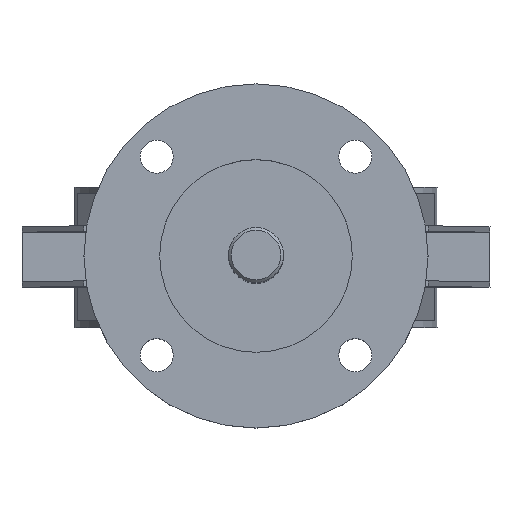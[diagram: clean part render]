
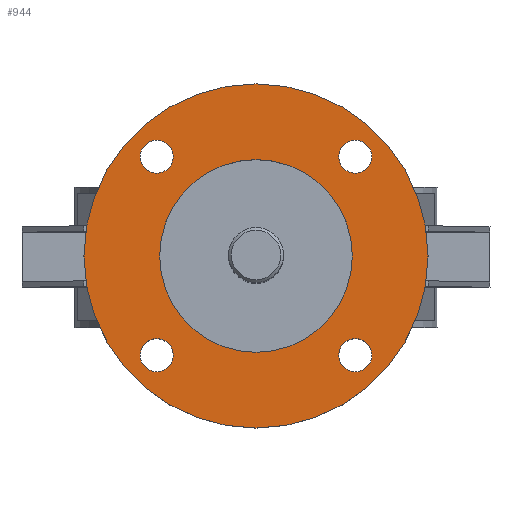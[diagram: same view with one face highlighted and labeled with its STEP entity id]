
A CAD part, top view. The second image highlights one B-rep face of the part: STEP entity #944.
In plain terms, the highlighted planar face has unit normal (0, 0, 1).
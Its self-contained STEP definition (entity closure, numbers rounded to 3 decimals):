
#944=ADVANCED_FACE('',(#2167,#2169,#2171,#2173,#2175,#2177),#2179,.T.);
#2167=FACE_BOUND('',#2168,.T.);
#2168=EDGE_LOOP('',(#3171));
#2169=FACE_BOUND('',#2170,.T.);
#2170=EDGE_LOOP('',(#3172));
#2171=FACE_BOUND('',#2172,.T.);
#2172=EDGE_LOOP('',(#3173));
#2173=FACE_BOUND('',#2174,.T.);
#2174=EDGE_LOOP('',(#3174));
#2175=FACE_BOUND('',#2176,.T.);
#2176=EDGE_LOOP('',(#3175));
#2177=FACE_BOUND('',#2178,.T.);
#2178=EDGE_LOOP('',(#3176));
#2179=PLANE('',#2180);
#2180=AXIS2_PLACEMENT_3D('',#2181,#2182,#2183);
#2181=CARTESIAN_POINT('',(0.,0.,309.));
#2182=DIRECTION('',(0.,0.,1.));
#2183=DIRECTION('',(-1.,0.,0.));
#3171=ORIENTED_EDGE('',*,*,#3573,.T.);
#3172=ORIENTED_EDGE('',*,*,#3574,.T.);
#3173=ORIENTED_EDGE('',*,*,#3575,.T.);
#3174=ORIENTED_EDGE('',*,*,#3576,.T.);
#3175=ORIENTED_EDGE('',*,*,#3695,.T.);
#3176=ORIENTED_EDGE('',*,*,#3577,.T.);
#3573=EDGE_CURVE('',#4122,#4122,#4123,.T.);
#3574=EDGE_CURVE('',#4124,#4124,#4125,.F.);
#3575=EDGE_CURVE('',#4126,#4126,#4127,.F.);
#3576=EDGE_CURVE('',#4128,#4128,#4129,.F.);
#3577=EDGE_CURVE('',#4130,#4130,#4131,.F.);
#3695=EDGE_CURVE('',#4334,#4334,#4335,.F.);
#4122=VERTEX_POINT('',#5284);
#4123=CIRCLE('',#5285,62.5);
#4124=VERTEX_POINT('',#5289);
#4125=CIRCLE('',#5290,6.);
#4126=VERTEX_POINT('',#5294);
#4127=CIRCLE('',#5295,6.);
#4128=VERTEX_POINT('',#5299);
#4129=CIRCLE('',#5300,6.);
#4130=VERTEX_POINT('',#5304);
#4131=CIRCLE('',#5305,6.);
#4334=VERTEX_POINT('',#5802);
#4335=CIRCLE('',#5803,35.);
#5284=CARTESIAN_POINT('',(-62.5,0.,309.));
#5285=AXIS2_PLACEMENT_3D('',#5286,#5287,#5288);
#5286=CARTESIAN_POINT('',(0.,0.,309.));
#5287=DIRECTION('',(0.,0.,1.));
#5288=DIRECTION('',(-1.,0.,0.));
#5289=CARTESIAN_POINT('',(30.062,-36.062,309.));
#5290=AXIS2_PLACEMENT_3D('',#5291,#5292,#5293);
#5291=CARTESIAN_POINT('',(36.062,-36.062,309.));
#5292=DIRECTION('',(0.,0.,1.));
#5293=DIRECTION('',(-1.,0.,0.));
#5294=CARTESIAN_POINT('',(36.062,30.062,309.));
#5295=AXIS2_PLACEMENT_3D('',#5296,#5297,#5298);
#5296=CARTESIAN_POINT('',(36.062,36.062,309.));
#5297=DIRECTION('',(0.,0.,1.));
#5298=DIRECTION('',(0.,-1.,0.));
#5299=CARTESIAN_POINT('',(-30.062,36.062,309.));
#5300=AXIS2_PLACEMENT_3D('',#5301,#5302,#5303);
#5301=CARTESIAN_POINT('',(-36.062,36.062,309.));
#5302=DIRECTION('',(0.,0.,1.));
#5303=DIRECTION('',(1.,0.,-0.));
#5304=CARTESIAN_POINT('',(-36.062,-30.062,309.));
#5305=AXIS2_PLACEMENT_3D('',#5306,#5307,#5308);
#5306=CARTESIAN_POINT('',(-36.062,-36.062,309.));
#5307=DIRECTION('',(0.,0.,1.));
#5308=DIRECTION('',(0.,1.,0.));
#5802=CARTESIAN_POINT('',(0.,35.,309.));
#5803=AXIS2_PLACEMENT_3D('',#5804,#5805,#5806);
#5804=CARTESIAN_POINT('',(0.,0.,309.));
#5805=DIRECTION('',(0.,0.,1.));
#5806=DIRECTION('',(0.,1.,0.));
